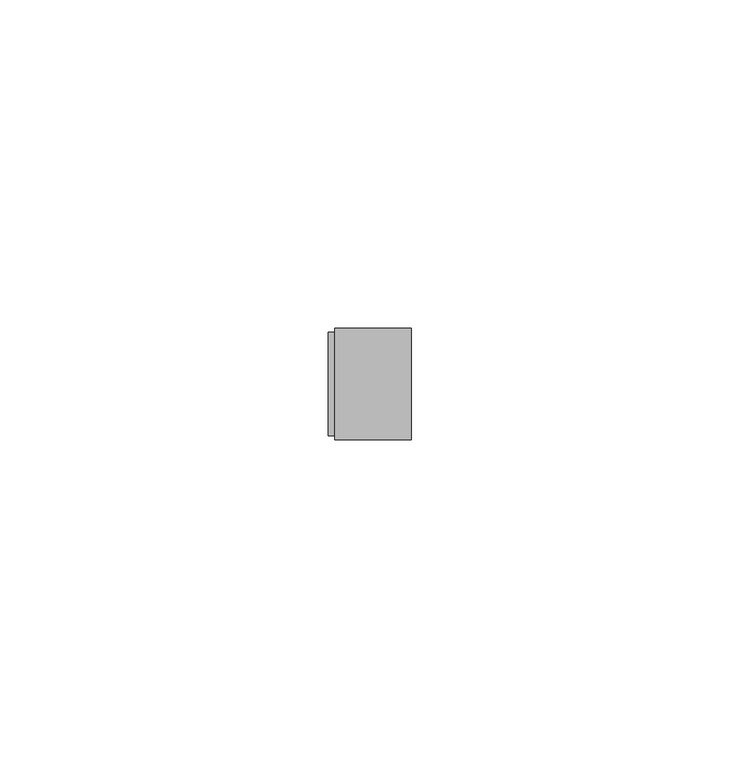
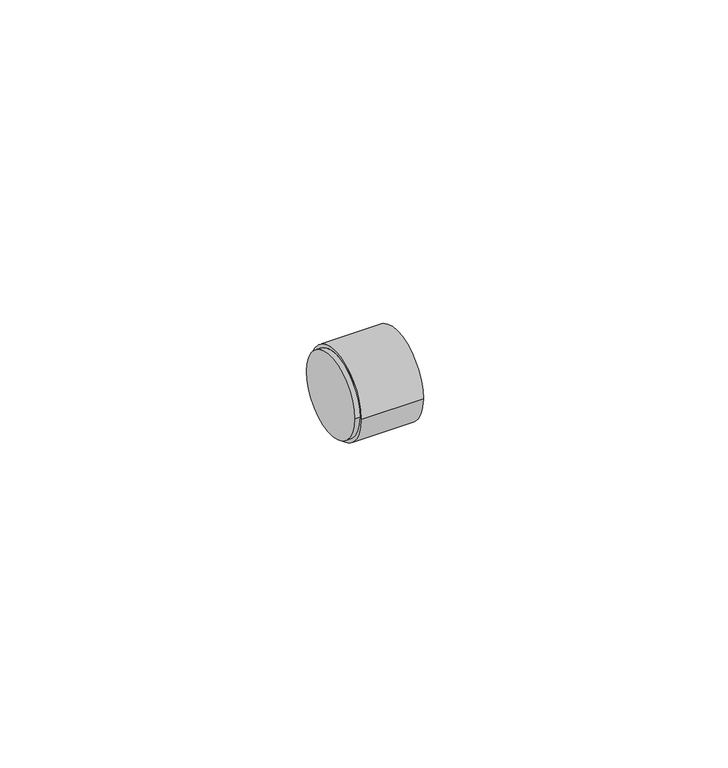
"""IFC4 building model written with IfcOpenShell, lengths in millimetres: pipe fitting geometry, Bucha de redução reta - Soldada - CU : Padrão."""

from ifc_helpers import new_model, si_unit, frame, origin, place, context, project, spatial, circle_curve, source, transform, mapped, element, save
from ifc_brep_helpers import plane_surface, cylinder_surface, advanced_brep


def pipe_fitting_6cbfda34(model_context):
    return source(origin(), model_context, "Body", "AdvancedBrep", [
        advanced_brep(
        [(0.0, 7.85, 0.0), (0.0, -7.85, 0.0), (1.0, -7.85, 0.0), (1.0, 7.85, 0.0), (12.6589, 8.4937, 0.0), (12.6589, -8.4937, 0.0), (1.0, -8.4937, 0.0), (1.0, 8.4937, 0.0)],
        [
            (0, 1, circle_curve(frame((0.0, 0.0, 0.0), z_axis=(-1.0, 0.0, 0.0), x_axis=(0.0, -1.0, 0.0)), 7.85)),
            (1, 0, circle_curve(frame((0.0, 0.0, 0.0), z_axis=(-1.0, 0.0, 0.0), x_axis=(0.0, -1.0, 0.0)), 7.85)),
            (1, 2),
            (2, 3, circle_curve(frame((1.0, 0.0, 0.0), z_axis=(-1.0, 0.0, 0.0), x_axis=(0.0, -1.0, 0.0)), 7.85)),
            (3, 0),
            (3, 2, circle_curve(frame((1.0, 0.0, 0.0), z_axis=(-1.0, 0.0, 0.0), x_axis=(0.0, -1.0, 0.0)), 7.85)),
            (4, 5, circle_curve(frame((12.6589, 0.0, 0.0), z_axis=(1.0, 0.0, 0.0), x_axis=(0.0, -1.0, 0.0)), 8.4937)),
            (5, 4, circle_curve(frame((12.6589, 0.0, 0.0), z_axis=(1.0, 0.0, 0.0), x_axis=(0.0, -1.0, 0.0)), 8.4937)),
            (6, 5),
            (4, 7),
            (7, 6, circle_curve(frame((1.0, 0.0, 0.0), z_axis=(1.0, 0.0, 0.0), x_axis=(0.0, -1.0, 0.0)), 8.4937)),
            (6, 7, circle_curve(frame((1.0, 0.0, 0.0), z_axis=(1.0, 0.0, 0.0), x_axis=(0.0, -1.0, 0.0)), 8.4937)),
        ],
        [
            plane_surface(frame((0.0, 0.0, 0.0), z_axis=(-1.0, 0.0, 0.0), x_axis=(0.0, 0.0, 1.0))),
            cylinder_surface(frame((0.0, 0.0, 0.0), z_axis=(-1.0, 0.0, 0.0), x_axis=(0.0, -1.0, 0.0)), 7.85),
            plane_surface(frame((12.6589, 0.0, 0.0), z_axis=(1.0, 0.0, 0.0), x_axis=(0.0, 0.0, 1.0))),
            cylinder_surface(frame((1.0, 0.0, 0.0), z_axis=(-1.0, 0.0, 0.0), x_axis=(0.0, -1.0, 0.0)), 8.4937),
            plane_surface(frame((1.0, 0.0, 0.0), z_axis=(-1.0, 0.0, 0.0), x_axis=(0.0, 0.0, 1.0))),
        ],
        [
            (0, [[1, 2]]),
            (1, [[3, 4, 5, -2]]),
            (1, [[-5, 6, -3, -1]]),
            (2, [[7, 8]]),
            (3, [[9, -7, 10, 11]]),
            (3, [[-10, -8, -9, 12]]),
            (4, [[-12, -11], [-6, -4]]),
        ],
    ),
    ])


if __name__ == "__main__":
    model = new_model("IFC4")
    model_context = context("Model", 3, world=origin())
    ifc_project = project(units=[si_unit("LENGTHUNIT", "METRE", prefix="MILLI")], contexts=[model_context])
    site = spatial("IfcSite", under=ifc_project)
    building = spatial("IfcBuilding", under=site)
    placement = place(None, origin())
    pipe_fitting_shape = pipe_fitting_6cbfda34(model_context)
    element("IfcPipeFitting", 1, ObjectType="Bucha de redução reta - Soldada - CU : Padrão", at=placement, inside=building, context=model_context, shape_type="MappedRepresentation", body=[
        mapped(pipe_fitting_shape, transform((0.0, 0.0, 0.0), x_axis=(1.0, 0.0, 0.0), y_axis=(0.0, 1.0, 0.0), z_axis=(0.0, 0.0, 1.0))),
    ])
    save(model, "model.ifc")
